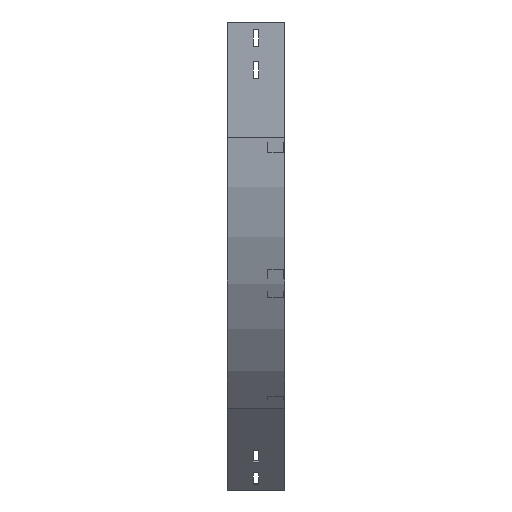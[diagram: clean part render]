
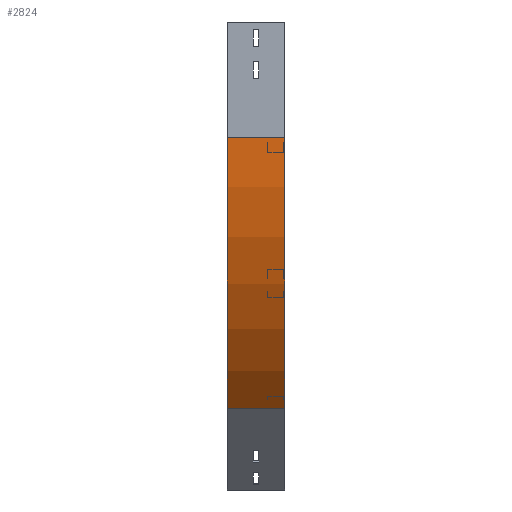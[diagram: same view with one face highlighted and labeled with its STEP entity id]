
A CAD part, left-side view. The second image highlights one B-rep face of the part: STEP entity #2824.
In plain terms, the highlighted cylindrical face has radius 500 mm (diameter 1000 mm), a partial arc.
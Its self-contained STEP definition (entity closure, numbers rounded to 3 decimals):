
#69 = AXIS2_PLACEMENT_3D ( 'NONE', #1266, #2483, #971 ) ;
#164 = DIRECTION ( 'NONE',  ( 0., -1., 0. ) ) ;
#201 = VECTOR ( 'NONE', #1197, 1000. ) ;
#402 = DIRECTION ( 'NONE',  ( 0., 0., -1. ) ) ;
#534 = LINE ( 'NONE', #2615, #3813 ) ;
#718 = DIRECTION ( 'NONE',  ( 0., -1., 0. ) ) ;
#732 = EDGE_CURVE ( 'NONE', #3456, #3315, #3592, .T. ) ;
#887 = EDGE_CURVE ( 'NONE', #3315, #3340, #3692, .T. ) ;
#919 = CARTESIAN_POINT ( 'NONE',  ( 0., 0., -150. ) ) ;
#945 = ORIENTED_EDGE ( 'NONE', *, *, #1491, .T. ) ;
#971 = DIRECTION ( 'NONE',  ( -1., 0., 0. ) ) ;
#1141 = ORIENTED_EDGE ( 'NONE', *, *, #887, .F. ) ;
#1197 = DIRECTION ( 'NONE',  ( 0., -1., 0. ) ) ;
#1266 = CARTESIAN_POINT ( 'NONE',  ( 500., 75., -150. ) ) ;
#1347 = DIRECTION ( 'NONE',  ( -1., 0., 0. ) ) ;
#1355 = ORIENTED_EDGE ( 'NONE', *, *, #732, .F. ) ;
#1491 = EDGE_CURVE ( 'NONE', #3033, #3340, #534, .T. ) ;
#1540 = AXIS2_PLACEMENT_3D ( 'NONE', #3698, #718, #402 ) ;
#1679 = EDGE_CURVE ( 'NONE', #3456, #3033, #3112, .T. ) ;
#1860 = CYLINDRICAL_SURFACE ( 'NONE', #1540, 500. ) ;
#1914 = CARTESIAN_POINT ( 'NONE',  ( 0., 0., -150. ) ) ;
#1919 = FACE_OUTER_BOUND ( 'NONE', #3084, .T. ) ;
#2091 = ORIENTED_EDGE ( 'NONE', *, *, #1679, .T. ) ;
#2483 = DIRECTION ( 'NONE',  ( 0., -1., 0. ) ) ;
#2615 = CARTESIAN_POINT ( 'NONE',  ( 146.447, 0., -503.553 ) ) ;
#2625 = AXIS2_PLACEMENT_3D ( 'NONE', #3113, #164, #1347 ) ;
#2824 = ADVANCED_FACE ( 'NONE', ( #1919 ), #1860, .T. ) ;
#2893 = CARTESIAN_POINT ( 'NONE',  ( 0., 75., -150. ) ) ;
#2919 = DIRECTION ( 'NONE',  ( 0., -1., 0. ) ) ;
#3033 = VERTEX_POINT ( 'NONE', #3440 ) ;
#3084 = EDGE_LOOP ( 'NONE', ( #1141, #1355, #2091, #945 ) ) ;
#3112 = CIRCLE ( 'NONE', #69, 500. ) ;
#3113 = CARTESIAN_POINT ( 'NONE',  ( 500., 0., -150. ) ) ;
#3122 = CARTESIAN_POINT ( 'NONE',  ( 146.447, 0., -503.553 ) ) ;
#3315 = VERTEX_POINT ( 'NONE', #1914 ) ;
#3340 = VERTEX_POINT ( 'NONE', #3122 ) ;
#3440 = CARTESIAN_POINT ( 'NONE',  ( 146.447, 75., -503.553 ) ) ;
#3456 = VERTEX_POINT ( 'NONE', #2893 ) ;
#3592 = LINE ( 'NONE', #919, #201 ) ;
#3692 = CIRCLE ( 'NONE', #2625, 500. ) ;
#3698 = CARTESIAN_POINT ( 'NONE',  ( 500., 0., -150. ) ) ;
#3813 = VECTOR ( 'NONE', #2919, 1000. ) ;
